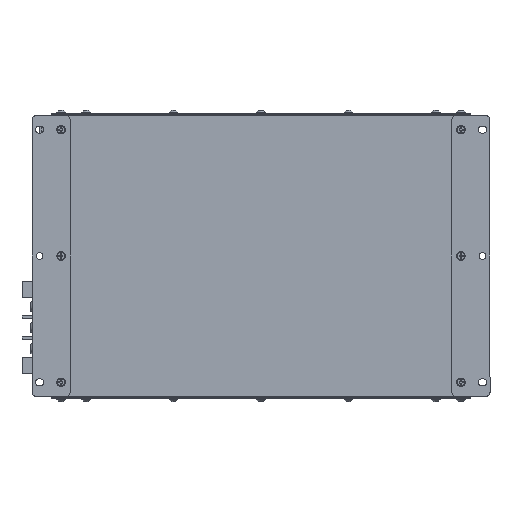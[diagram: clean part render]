
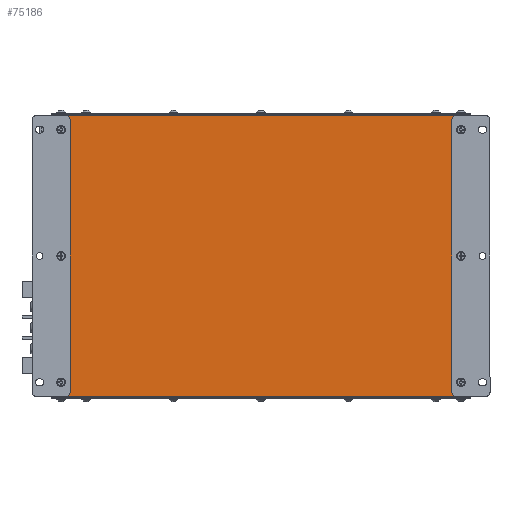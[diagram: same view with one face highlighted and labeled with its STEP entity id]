
A CAD part, front view. The second image highlights one B-rep face of the part: STEP entity #75186.
In plain terms, the highlighted planar face has unit normal (0, -1, 0).
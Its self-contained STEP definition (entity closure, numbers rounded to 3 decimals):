
#5524=PLANE('',#80793);
#8530=LINE('',#126223,#14351);
#8532=LINE('',#126227,#14353);
#10363=LINE('',#142881,#16184);
#10369=LINE('',#142898,#16190);
#10373=LINE('',#142906,#16194);
#10405=LINE('',#143028,#16226);
#10411=LINE('',#143044,#16232);
#10415=LINE('',#143052,#16236);
#10649=LINE('',#143852,#16470);
#10728=LINE('',#144014,#16549);
#10729=LINE('',#144016,#16550);
#10730=LINE('',#144017,#16551);
#14351=VECTOR('',#90660,0.394);
#14353=VECTOR('',#90662,0.394);
#16184=VECTOR('',#95175,0.394);
#16190=VECTOR('',#95193,0.394);
#16194=VECTOR('',#95203,0.394);
#16226=VECTOR('',#95333,0.394);
#16232=VECTOR('',#95351,0.394);
#16236=VECTOR('',#95361,0.394);
#16470=VECTOR('',#96187,0.394);
#16549=VECTOR('',#96422,0.394);
#16550=VECTOR('',#96425,0.394);
#16551=VECTOR('',#96426,0.394);
#21382=FACE_OUTER_BOUND('',#25431,.T.);
#25431=EDGE_LOOP('',(#65674,#65675,#65676,#65677,#65678,#65679,#65680,#65681,
#65682,#65683,#65684,#65685,#65686,#65687,#65688,#65689));
#28103=CIRCLE('',#80350,0.157);
#28106=CIRCLE('',#80359,0.157);
#28133=CIRCLE('',#80408,0.157);
#28136=CIRCLE('',#80417,0.157);
#31986=VERTEX_POINT('',#126220);
#31987=VERTEX_POINT('',#126222);
#31988=VERTEX_POINT('',#126224);
#31989=VERTEX_POINT('',#126226);
#34965=VERTEX_POINT('',#142872);
#34966=VERTEX_POINT('',#142873);
#34968=VERTEX_POINT('',#142879);
#34972=VERTEX_POINT('',#142896);
#34973=VERTEX_POINT('',#142897);
#34974=VERTEX_POINT('',#142902);
#35013=VERTEX_POINT('',#143020);
#35014=VERTEX_POINT('',#143021);
#35019=VERTEX_POINT('',#143043);
#35020=VERTEX_POINT('',#143048);
#35282=VERTEX_POINT('',#143850);
#35285=VERTEX_POINT('',#144007);
#41406=EDGE_CURVE('',#31986,#31987,#8530,.T.);
#41408=EDGE_CURVE('',#31988,#31989,#8532,.T.);
#45081=EDGE_CURVE('',#34965,#34966,#28103,.T.);
#45085=EDGE_CURVE('',#34966,#34968,#10363,.T.);
#45093=EDGE_CURVE('',#34972,#34973,#10369,.T.);
#45096=EDGE_CURVE('',#34973,#34974,#28106,.T.);
#45098=EDGE_CURVE('',#34974,#34965,#10373,.T.);
#45153=EDGE_CURVE('',#35013,#35014,#28133,.T.);
#45157=EDGE_CURVE('',#35014,#31987,#10405,.T.);
#45165=EDGE_CURVE('',#31988,#35019,#10411,.T.);
#45168=EDGE_CURVE('',#35019,#35020,#28136,.T.);
#45170=EDGE_CURVE('',#35020,#35013,#10415,.T.);
#45573=EDGE_CURVE('',#35282,#31986,#10649,.T.);
#45652=EDGE_CURVE('',#31989,#35285,#10728,.T.);
#45653=EDGE_CURVE('',#35285,#34968,#10729,.T.);
#45654=EDGE_CURVE('',#34972,#35282,#10730,.T.);
#65674=ORIENTED_EDGE('',*,*,#45085,.T.);
#65675=ORIENTED_EDGE('',*,*,#45653,.F.);
#65676=ORIENTED_EDGE('',*,*,#45652,.F.);
#65677=ORIENTED_EDGE('',*,*,#41408,.F.);
#65678=ORIENTED_EDGE('',*,*,#45165,.T.);
#65679=ORIENTED_EDGE('',*,*,#45168,.T.);
#65680=ORIENTED_EDGE('',*,*,#45170,.T.);
#65681=ORIENTED_EDGE('',*,*,#45153,.T.);
#65682=ORIENTED_EDGE('',*,*,#45157,.T.);
#65683=ORIENTED_EDGE('',*,*,#41406,.F.);
#65684=ORIENTED_EDGE('',*,*,#45573,.F.);
#65685=ORIENTED_EDGE('',*,*,#45654,.F.);
#65686=ORIENTED_EDGE('',*,*,#45093,.T.);
#65687=ORIENTED_EDGE('',*,*,#45096,.T.);
#65688=ORIENTED_EDGE('',*,*,#45098,.T.);
#65689=ORIENTED_EDGE('',*,*,#45081,.T.);
#75186=ADVANCED_FACE('',(#21382),#5524,.F.);
#80350=AXIS2_PLACEMENT_3D('',#142874,#95168,#95169);
#80359=AXIS2_PLACEMENT_3D('',#142903,#95198,#95199);
#80408=AXIS2_PLACEMENT_3D('',#143022,#95326,#95327);
#80417=AXIS2_PLACEMENT_3D('',#143049,#95356,#95357);
#80793=AXIS2_PLACEMENT_3D('',#144015,#96423,#96424);
#90660=DIRECTION('',(0.,0.,1.));
#90662=DIRECTION('',(0.,0.,1.));
#95168=DIRECTION('center_axis',(0.,1.,0.));
#95169=DIRECTION('ref_axis',(0.,0.,1.));
#95175=DIRECTION('',(1.,0.,0.));
#95193=DIRECTION('',(-1.,0.,0.));
#95198=DIRECTION('center_axis',(0.,1.,0.));
#95199=DIRECTION('ref_axis',(-1.,0.,0.));
#95203=DIRECTION('',(0.,0.,1.));
#95326=DIRECTION('center_axis',(0.,1.,0.));
#95327=DIRECTION('ref_axis',(0.,0.,-1.));
#95333=DIRECTION('',(-1.,0.,0.));
#95351=DIRECTION('',(1.,0.,0.));
#95356=DIRECTION('center_axis',(0.,1.,0.));
#95357=DIRECTION('ref_axis',(1.,0.,0.));
#95361=DIRECTION('',(0.,0.,-1.));
#96187=DIRECTION('',(-1.,0.,0.));
#96422=DIRECTION('',(1.,0.,0.));
#96423=DIRECTION('center_axis',(0.,1.,0.));
#96424=DIRECTION('ref_axis',(0.,0.,1.));
#96425=DIRECTION('',(0.,0.,-1.));
#96426=DIRECTION('',(0.,0.,-1.));
#126220=CARTESIAN_POINT('',(-14.922,0.,-0.736));
#126222=CARTESIAN_POINT('',(-14.922,0.,-0.712));
#126223=CARTESIAN_POINT('',(-14.922,0.,-0.736));
#126224=CARTESIAN_POINT('',(-14.922,0.,10.311));
#126226=CARTESIAN_POINT('',(-14.922,0.,10.335));
#126227=CARTESIAN_POINT('',(-14.922,0.,-0.736));
#142872=CARTESIAN_POINT('',(0.826,0.,10.154));
#142873=CARTESIAN_POINT('',(0.984,0.,10.311));
#142874=CARTESIAN_POINT('Origin',(0.984,0.,10.154));
#142879=CARTESIAN_POINT('',(1.574,0.,10.311));
#142881=CARTESIAN_POINT('',(-2.254,0.,10.311));
#142896=CARTESIAN_POINT('',(1.574,0.,-0.712));
#142897=CARTESIAN_POINT('',(0.984,0.,-0.712));
#142898=CARTESIAN_POINT('',(-2.845,0.,-0.712));
#142902=CARTESIAN_POINT('',(0.826,0.,-0.555));
#142903=CARTESIAN_POINT('Origin',(0.984,0.,-0.555));
#142906=CARTESIAN_POINT('',(0.826,0.,7.477));
#143020=CARTESIAN_POINT('',(-14.174,0.,-0.555));
#143021=CARTESIAN_POINT('',(-14.331,0.,-0.712));
#143022=CARTESIAN_POINT('Origin',(-14.331,0.,-0.555));
#143028=CARTESIAN_POINT('',(-11.093,0.,-0.712));
#143043=CARTESIAN_POINT('',(-14.331,0.,10.311));
#143044=CARTESIAN_POINT('',(-10.502,0.,10.311));
#143048=CARTESIAN_POINT('',(-14.174,0.,10.154));
#143049=CARTESIAN_POINT('Origin',(-14.331,0.,10.154));
#143052=CARTESIAN_POINT('',(-14.174,0.,2.122));
#143850=CARTESIAN_POINT('',(1.574,0.,-0.736));
#143852=CARTESIAN_POINT('',(1.574,0.,-0.736));
#144007=CARTESIAN_POINT('',(1.574,0.,10.335));
#144014=CARTESIAN_POINT('',(-14.922,0.,10.335));
#144015=CARTESIAN_POINT('Origin',(-6.674,0.,4.799));
#144016=CARTESIAN_POINT('',(1.574,0.,10.335));
#144017=CARTESIAN_POINT('',(1.574,0.,10.335));
